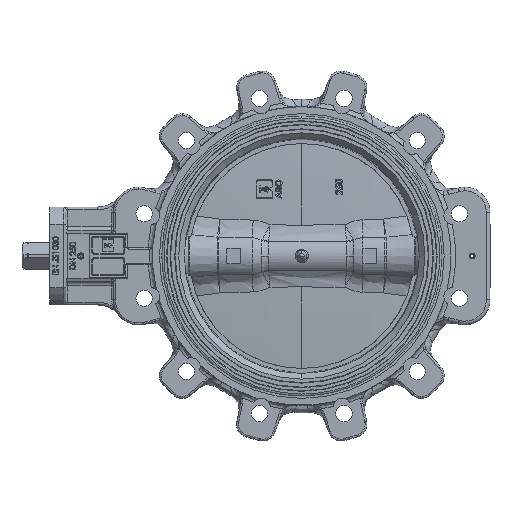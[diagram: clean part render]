
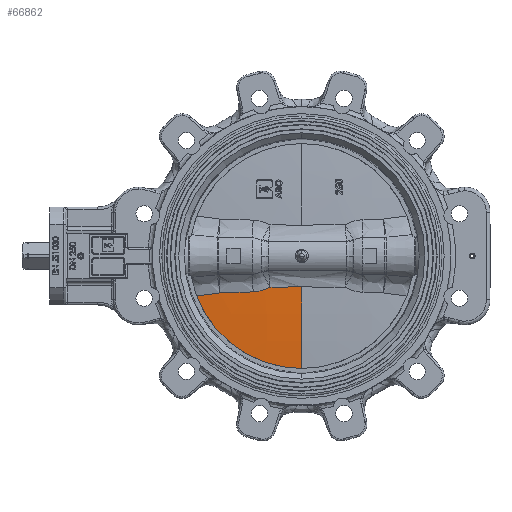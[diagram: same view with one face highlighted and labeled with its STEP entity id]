
A CAD part, left-side view. The second image highlights one B-rep face of the part: STEP entity #66862.
In plain terms, the highlighted free-form (B-spline) face has degree [3, 3] with [4, 4] control points.
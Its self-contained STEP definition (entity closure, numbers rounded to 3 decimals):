
#45 = FACE_OUTER_BOUND ( 'NONE', #27746, .T. ) ;
#2194 = CARTESIAN_POINT ( 'NONE',  ( -3.173, 112.723, -42.91 ) ) ;
#3882 = VERTEX_POINT ( 'NONE', #14373 ) ;
#5121 = CARTESIAN_POINT ( 'NONE',  ( -3.135, 37.749, -121.138 ) ) ;
#5758 = CARTESIAN_POINT ( 'NONE',  ( -7.175, 11.271, -33.085 ) ) ;
#6966 = EDGE_CURVE ( 'NONE', #57788, #13711, #65707, .T. ) ;
#9045 = AXIS2_PLACEMENT_3D ( 'NONE', #62924, #11403, #69473 ) ;
#10372 = CARTESIAN_POINT ( 'NONE',  ( -3.173, 112.723, -42.91 ) ) ;
#11229 = CARTESIAN_POINT ( 'NONE',  ( -3.173, 0., -120.614 ) ) ;
#11403 = DIRECTION ( 'NONE',  ( 1., -0.032, 0. ) ) ;
#11830 = AXIS2_PLACEMENT_3D ( 'NONE', #36778, #70757, #53895 ) ;
#12071 = EDGE_CURVE ( 'NONE', #3882, #37949, #68158, .T. ) ;
#13711 = VERTEX_POINT ( 'NONE', #11229 ) ;
#14373 = CARTESIAN_POINT ( 'NONE',  ( -6.822, 34.115, -33.419 ) ) ;
#15564 = CARTESIAN_POINT ( 'NONE',  ( -5.892, 63.547, -38.761 ) ) ;
#15757 = CARTESIAN_POINT ( 'NONE',  ( 0.681, 113.141, -121.138 ) ) ;
#16503 = CARTESIAN_POINT ( 'NONE',  ( -5.909, 75.659, -32.559 ) ) ;
#17339 = EDGE_CURVE ( 'NONE', #37949, #49704, #40524, .T. ) ;
#21507 = CARTESIAN_POINT ( 'NONE',  ( -1.442, 113.284, -91.651 ) ) ;
#22520 = CARTESIAN_POINT ( 'NONE',  ( -6.25, 52.224, -38.475 ) ) ;
#22781 = B_SPLINE_CURVE_WITH_KNOTS ( 'NONE', 3,
 ( #38803, #45066, #44577, #50587, #27468, #10372 ),
 .UNSPECIFIED., .F., .F.,
 ( 4, 2, 4 ),
 ( 0., 0.5, 1. ),
 .UNSPECIFIED. ) ;
#23131 = CARTESIAN_POINT ( 'NONE',  ( -7.059, 22.644, -33.196 ) ) ;
#24504 = ORIENTED_EDGE ( 'NONE', *, *, #6966, .T. ) ;
#24886 = ORIENTED_EDGE ( 'NONE', *, *, #17339, .T. ) ;
#25908 = CARTESIAN_POINT ( 'NONE',  ( -7.175, 0., -33.085 ) ) ;
#26136 = CARTESIAN_POINT ( 'NONE',  ( -5.4, 75.405, -39.148 ) ) ;
#27468 = CARTESIAN_POINT ( 'NONE',  ( -3.601, 106.649, -42.11 ) ) ;
#27746 = EDGE_LOOP ( 'NONE', ( #24504, #62116, #66576, #56172, #24886, #47119 ) ) ;
#27822 = CARTESIAN_POINT ( 'NONE',  ( -5.338, 75.634, -62.118 ) ) ;
#28070 = CARTESIAN_POINT ( 'NONE',  ( -5.263, 37.797, -91.651 ) ) ;
#31367 = B_SPLINE_CURVE_WITH_KNOTS ( 'NONE', 3,
 ( #63123, #5758, #23131, #74457 ),
 .UNSPECIFIED., .F., .F.,
 ( 4, 4 ),
 ( 0.576, 1. ),
 .UNSPECIFIED. ) ;
#31482 = AXIS2_PLACEMENT_3D ( 'NONE', #70105, #47192, #52984 ) ;
#31945 = VERTEX_POINT ( 'NONE', #25908 ) ;
#32844 = CARTESIAN_POINT ( 'NONE',  ( -6.613, 0., -62.118 ) ) ;
#33078 = CARTESIAN_POINT ( 'NONE',  ( -1.863, 75.477, -121.138 ) ) ;
#36778 = CARTESIAN_POINT ( 'NONE',  ( -3.173, 0., 0. ) ) ;
#37949 = VERTEX_POINT ( 'NONE', #22520 ) ;
#38803 = CARTESIAN_POINT ( 'NONE',  ( -4.742, 87.793, -39.634 ) ) ;
#40524 = B_SPLINE_CURVE_WITH_KNOTS ( 'NONE', 3,
 ( #48017, #15564, #26136, #55783 ),
 .UNSPECIFIED., .F., .F.,
 ( 4, 4 ),
 ( 0., 1. ),
 .UNSPECIFIED. ) ;
#42027 = CARTESIAN_POINT ( 'NONE',  ( -4.742, 87.793, -39.634 ) ) ;
#44577 = CARTESIAN_POINT ( 'NONE',  ( -4.438, 93.222, -40.345 ) ) ;
#44679 = CARTESIAN_POINT ( 'NONE',  ( -7.185, 0., -32.559 ) ) ;
#45066 = CARTESIAN_POINT ( 'NONE',  ( -4.618, 90.027, -39.926 ) ) ;
#47119 = ORIENTED_EDGE ( 'NONE', *, *, #54473, .T. ) ;
#47192 = DIRECTION ( 'NONE',  ( 0., 1., 0. ) ) ;
#48017 = CARTESIAN_POINT ( 'NONE',  ( -6.25, 52.224, -38.475 ) ) ;
#49704 = VERTEX_POINT ( 'NONE', #42027 ) ;
#50434 = CARTESIAN_POINT ( 'NONE',  ( -3.359, 113.414, -32.559 ) ) ;
#50587 = CARTESIAN_POINT ( 'NONE',  ( -3.929, 101.533, -41.437 ) ) ;
#50686 = CARTESIAN_POINT ( 'NONE',  ( -3.135, 0., -121.138 ) ) ;
#50924 = CARTESIAN_POINT ( 'NONE',  ( -7.185, 37.84, -32.559 ) ) ;
#52984 = DIRECTION ( 'NONE',  ( 0., 0., -1. ) ) ;
#53895 = DIRECTION ( 'NONE',  ( 0., 0., -1. ) ) ;
#54473 = EDGE_CURVE ( 'NONE', #49704, #57788, #22781, .T. ) ;
#55783 = CARTESIAN_POINT ( 'NONE',  ( -4.742, 87.793, -39.634 ) ) ;
#56172 = ORIENTED_EDGE ( 'NONE', *, *, #12071, .T. ) ;
#57788 = VERTEX_POINT ( 'NONE', #2194 ) ;
#58501 = CIRCLE ( 'NONE', #31482, 1683.25 ) ;
#62116 = ORIENTED_EDGE ( 'NONE', *, *, #67640, .T. ) ;
#62252 = CARTESIAN_POINT ( 'NONE',  ( -5.263, 0., -91.651 ) ) ;
#62924 = CARTESIAN_POINT ( 'NONE',  ( -6.219, 53.197, 0. ) ) ;
#63123 = CARTESIAN_POINT ( 'NONE',  ( -7.175, 0., -33.085 ) ) ;
#65707 = CIRCLE ( 'NONE', #11830, 120.614 ) ;
#66576 = ORIENTED_EDGE ( 'NONE', *, *, #68357, .T. ) ;
#66862 = ADVANCED_FACE ( 'NONE', ( #45 ), #71502, .T. ) ;
#67289 = CARTESIAN_POINT ( 'NONE',  ( -3.989, 75.573, -91.651 ) ) ;
#67541 = CARTESIAN_POINT ( 'NONE',  ( -6.613, 37.828, -62.118 ) ) ;
#67640 = EDGE_CURVE ( 'NONE', #13711, #31945, #58501, .T. ) ;
#68158 = CIRCLE ( 'NONE', #9045, 38.487 ) ;
#68357 = EDGE_CURVE ( 'NONE', #31945, #3882, #31367, .T. ) ;
#69473 = DIRECTION ( 'NONE',  ( 0.032, 1., 0. ) ) ;
#70105 = CARTESIAN_POINT ( 'NONE',  ( 1675.75, 0., 0. ) ) ;
#70757 = DIRECTION ( 'NONE',  ( -1., 0., 0. ) ) ;
#71502 =( BOUNDED_SURFACE ( )  B_SPLINE_SURFACE ( 3, 3, ( 
 ( #50686, #5121, #33078, #15757 ),
 ( #62252, #28070, #67289, #21507 ),
 ( #32844, #67541, #27822, #73363 ),
 ( #44679, #50924, #16503, #50434 ) ),
 .UNSPECIFIED., .F., .F., .F. ) 
 B_SPLINE_SURFACE_WITH_KNOTS ( ( 4, 4 ),
 ( 4, 4 ),
 ( 0., 1. ),
 ( 0., 1. ),
 .UNSPECIFIED. ) 
 GEOMETRIC_REPRESENTATION_ITEM ( )  RATIONAL_B_SPLINE_SURFACE ( (
 ( 1., 1., 1., 1.),
 ( 1., 0.999, 0.999, 1.),
 ( 1., 0.999, 0.999, 1.),
 ( 1., 1., 1., 1.) ) ) 
 REPRESENTATION_ITEM ( '' )  SURFACE ( )  );
#73363 = CARTESIAN_POINT ( 'NONE',  ( -2.789, 113.375, -62.118 ) ) ;
#74457 = CARTESIAN_POINT ( 'NONE',  ( -6.822, 34.115, -33.419 ) ) ;
